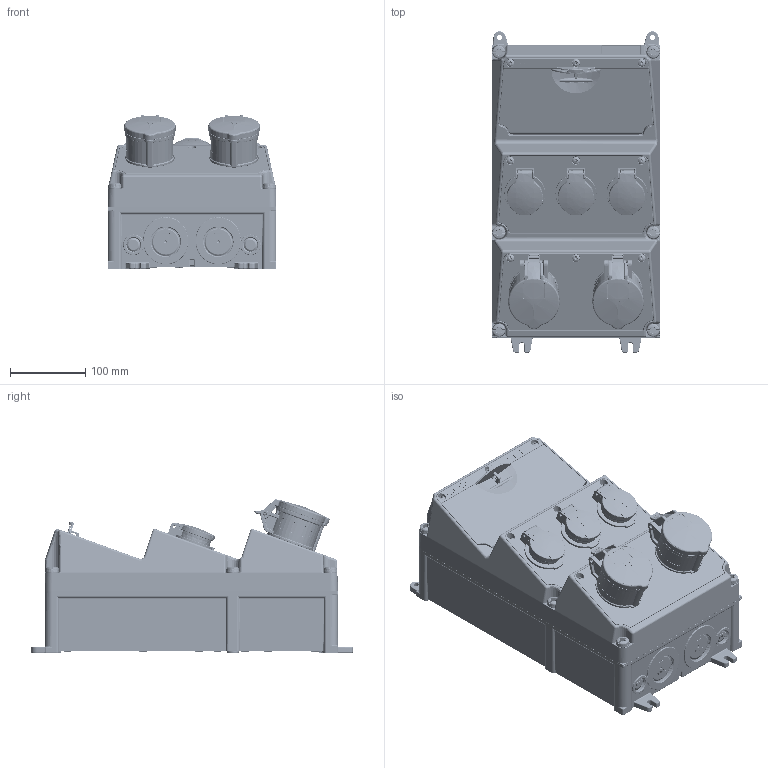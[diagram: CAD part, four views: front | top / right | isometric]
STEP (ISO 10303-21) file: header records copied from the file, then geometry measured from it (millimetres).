
FILE_DESCRIPTION((''),'2;1');
FILE_NAME('930004-2_ASM_1_ASM','2018-05-07T',('weltickej'),('MENNEKES'),'PRO/ENGINEER BY PARAMETRIC TECHNOLOGY CORPORATION, 2015440','PRO/ENGINEER BY PARAMETRIC TECHNOLOGY CORPORATION, 2015440','');
FILE_SCHEMA(('AUTOMOTIVE_DESIGN { 1 0 10303 214 1 1 1 1 }'));
Products named in the file (8): 3-4_SW_O_GRAU_1; MP_FEN10_44_OBEN_GRAU_1; MP_LEER_GRAU_1; LS_3POL_3TE_1; LS_1POL_1TE_1; AMAXX_CEE_16_5_44_ROT_1; AMAXX_SCHUKO_44_BLAU_1; 930004-2_ASM_1_ASM
Assembly tree (14 placements, depth 2):
  930004-2_ASM_1_ASM
    3-4_SW_O_GRAU_1
    MP_FEN10_44_OBEN_GRAU_1
    MP_LEER_GRAU_1  x2
    LS_3POL_3TE_1  x2
    LS_1POL_1TE_1  x3
    AMAXX_CEE_16_5_44_ROT_1  x2
    AMAXX_SCHUKO_44_BLAU_1  x3
Bounding box: 225 x 428.2 x 204.71 mm (x, y, z)
Volume: 9255693.2 mm3; surface area: 1062209.3 mm2
Topology: 14 solids, 14 shells, 12131 faces, 33552 edges, 21546 vertices
Faces by surface type: plane 5825, cylinder 3326, bspline 1109, torus 1061, cone 315, sphere 266, extrusion 229
Entity records: 388998 total; most frequent: CARTESIAN_POINT 119989, ORIENTED_EDGE 47038, DIRECTION 41212, EDGE_CURVE 23519, VERTEX_POINT 15047, AXIS2_PLACEMENT_3D 14315, VECTOR 12582, LINE 12434
